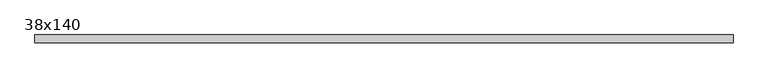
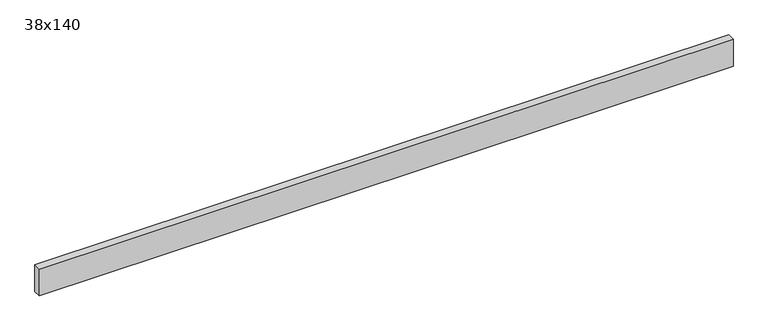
"""IFC4 building model written with IfcOpenShell, lengths in millimetres: beam geometry, Graded Timber : 38x140."""

from ifc_helpers import new_model, si_unit, frame, origin, place, context, project, spatial, polyline, outline, extrude, source, transform, mapped, element, save


def beam_38x140_75151bbb(model_context):
    return source(origin(), model_context, "Body", "SweptSolid", [
        extrude(outline(polyline([(1654.5000001, 19.0), (1654.5000001, -19.0), (-1759.8724208, -19.0), (-1759.8724208, 19.0), (1654.5000001, 19.0)])), frame((0.0, 0.0, -70.0), z_axis=(0.0, 0.0, 1.0), x_axis=(1.0, 0.0, 0.0)), (0.0, 0.0, 1.0), 140.0),
    ])


if __name__ == "__main__":
    model = new_model("IFC4")
    model_context = context("Model", 3, world=origin())
    ifc_project = project(units=[si_unit("LENGTHUNIT", "METRE", prefix="MILLI")], contexts=[model_context])
    site = spatial("IfcSite", under=ifc_project)
    building = spatial("IfcBuilding", under=site)
    placement = place(None, origin())
    beam_38x140_shape = beam_38x140_75151bbb(model_context)
    element("IfcBeam", 1, ObjectType="Graded Timber : 38x140", at=placement, inside=building, context=model_context, shape_type="MappedRepresentation", body=[
        mapped(beam_38x140_shape, transform((0.0, 0.0, 0.0), x_axis=(1.0, 0.0, 0.0), y_axis=(0.0, 1.0, 0.0), z_axis=(0.0, 0.0, 1.0))),
    ])
    save(model, "model.ifc")
